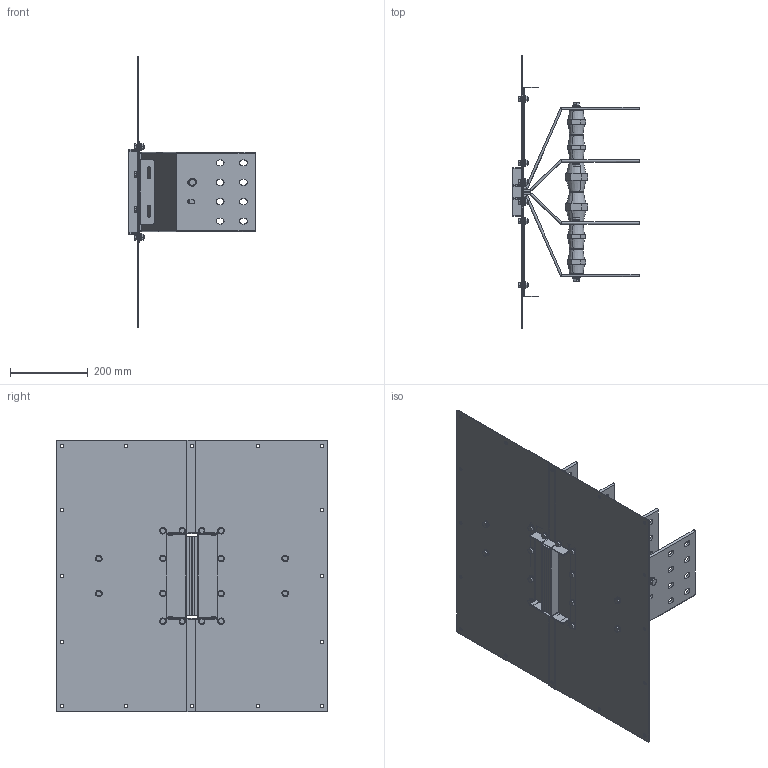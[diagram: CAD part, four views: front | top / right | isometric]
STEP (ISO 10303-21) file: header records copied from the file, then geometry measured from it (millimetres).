
FILE_DESCRIPTION(('CATIA V5 STEP','CAx-IF Rec.Pracs.--- Model Styling and Organization---1.5--- 2016-08-15','CAx-IF Rec.Pracs.---Supplemental Geometry---1.0---2011-11-01','CAx-IF Rec.Pracs.--- Composite Materials ---1.1---2010-07-15'),'2;1');
FILE_NAME('K:\COSCN 2011\32372311_RiduzioneSezioniBarre\03_Studio\__Modelli semplificati\XCP_UB semplificati per studi\XCP-HP_UB_4C_Pe_CRT_Assieme\Al\XCP-HP_UB_4C_Pe_S_Assieme - 2000A Al_CRT\XCP-HP_UB_4C_Pe_S_Assieme - 2000A Al_CRT.stp','2025-05-12T09:38:17+00:00',('Utente Bticino'),('Bticino S.p.A.'),'CATIA Version 5-6 Release 2020 SP5','CATIA V5 STEP AP214 v2','none');
FILE_SCHEMA(('AUTOMOTIVE_DESIGN { 1 0 10303 214 1 1 1 1 }'));
Length unit declared in the file: millimetre
Products named in the file (20): XCP-HP_UB_4C_Pe_S_Assieme - 2000A Al_CRT; XCP-HP_UB_4C_Pe_S_PaccoBarre_2000A Al_CRT; XCP-HP_UB_4C_Pe_S_Lamiere_2000A Al_CRT; Ass_M10x25.1; 00740025 M10x25 UNI5739; Rondella spac M10 UNI 1751; 00750005; 130006; 130184; 130006_1; 130184_1; 130006_2; 130006_3; 00750033 - RONDELLA PIANA 4.8 D.12 UNI 6592 ZB; 00750033 - RONDELLA PIANA 4.8 D.12 UNI 6592 ZB_1; 00750033 - RONDELLA PIANA 4.8 D.12 UNI 6592 ZB_2; Viteria UB H130; Ass Vite+dado M8; Steel hex flanged SCREW M12x16; Steel hex flanged NUT M8
Assembly tree (39 placements, depth 4):
  XCP-HP_UB_4C_Pe_S_Assieme - 2000A Al_CRT
    XCP-HP_UB_4C_Pe_S_PaccoBarre_2000A Al_CRT
    XCP-HP_UB_4C_Pe_S_Lamiere_2000A Al_CRT
    Ass_M10x25.1  x6
      00740025 M10x25 UNI5739
      Rondella spac M10 UNI 1751
      00750005
    130006
    130184
    130006_1
    130184_1
    130006_2
    130006_3
    00750033 - RONDELLA PIANA 4.8 D.12 UNI 6592 ZB
    00750033 - RONDELLA PIANA 4.8 D.12 UNI 6592 ZB_1
    00750033 - RONDELLA PIANA 4.8 D.12 UNI 6592 ZB_2
    Viteria UB H130
      Ass Vite+dado M8  x16
        Steel hex flanged SCREW M12x16
        Steel hex flanged NUT M8
Bounding box: 325 x 700 x 700 mm (x, y, z)
Volume: 3870528.1 mm3; surface area: 2125338.3 mm2
Topology: 73 solids, 73 shells, 1716 faces, 4144 edges, 2612 vertices
Faces by surface type: plane 760, cylinder 516, cone 200, bspline 176, torus 64
Entity records: 25669 total; most frequent: CARTESIAN_POINT 5588, ORIENTED_EDGE 4280, DIRECTION 3370, EDGE_CURVE 2140, AXIS2_PLACEMENT_3D 1460, VERTEX_POINT 1372, VECTOR 1248, LINE 1248
